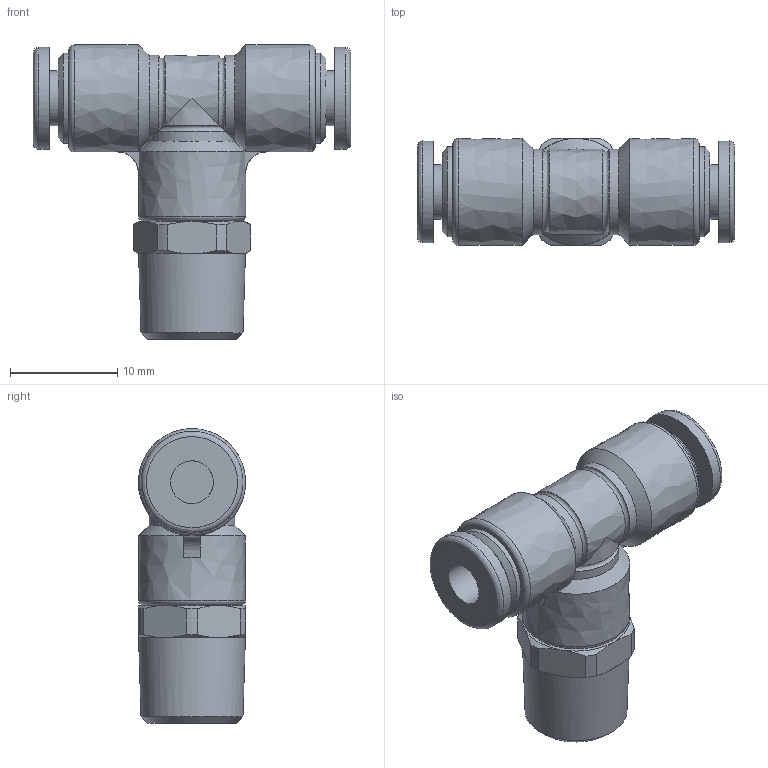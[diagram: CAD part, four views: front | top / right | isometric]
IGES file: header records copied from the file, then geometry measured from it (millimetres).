
Global section: file name: [02] FS4-01MT FS4-01MTW; native system: Autodesk Inventor 2014; preprocessor: unknown; author: kazuhiro.t; date: 20130806.165408; units: millimetre
Bounding box: 29.6 x 10 x 27.5 mm (x, y, z)
Volume: 3039.8 mm3; surface area: 2139.6 mm2
Topology: 1 solids, 1 shells, 86 faces, 202 edges, 128 vertices
Faces by surface type: bspline 86
